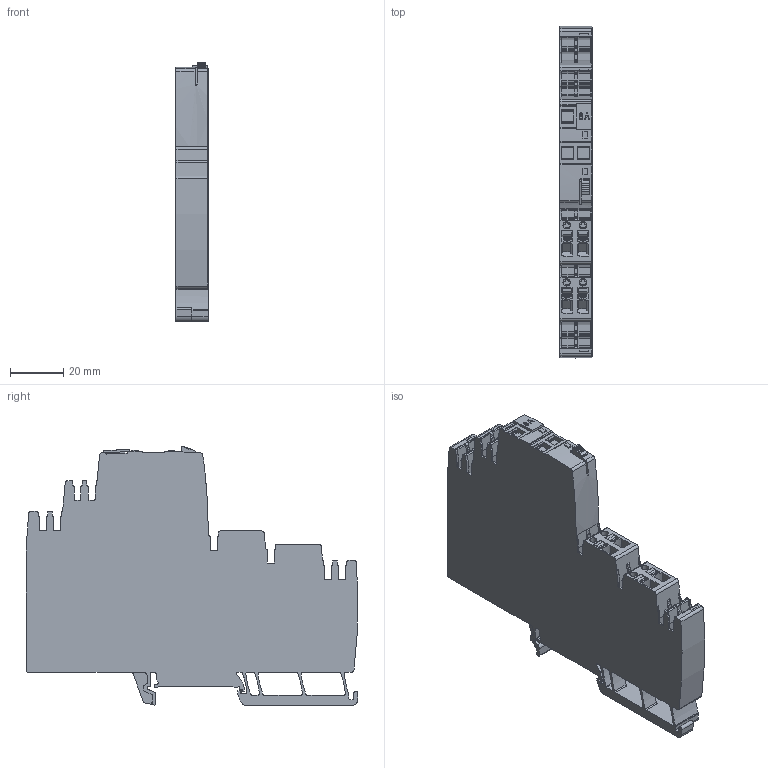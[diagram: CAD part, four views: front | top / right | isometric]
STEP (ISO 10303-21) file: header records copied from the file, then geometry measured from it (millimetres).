
FILE_DESCRIPTION(('CATIA V5R24 STEP','CAx-IF Rec.Pracs.--- Model Styling and Organization---1.2---2011-12-15'),'2;1');
FILE_NAME('\\SRVDE107\Germany\WMC\1_WMC_Input\Step_BU_PA\2082320000.stp','2017-08-31T09:54:21+00:00',('Weidmueller Interface'),('WI'),'CATIA Version 5-6 Release 2014 SP4','CATIA V5 STEP AP214','none');
FILE_SCHEMA(('AUTOMOTIVE_DESIGN { 1 0 10303 214 1 1 1 1 }'));
Length unit declared in the file: millimetre
Products named in the file (1): 2082320000
Bounding box: 12.1 x 125.07 x 97.53 mm (x, y, z)
Volume: 94461.7 mm3; surface area: 30884.7 mm2
Topology: 13 solids, 13 shells, 1524 faces, 4610 edges, 3153 vertices
Faces by surface type: plane 853, cylinder 596, extrusion 73, bspline 2
Entity records: 53396 total; most frequent: CARTESIAN_POINT 12092, ORIENTED_EDGE 9220, DIRECTION 6664, EDGE_CURVE 4591, VERTEX_POINT 3134, VECTOR 3094, LINE 3021, AXIS2_PLACEMENT_3D 2385
